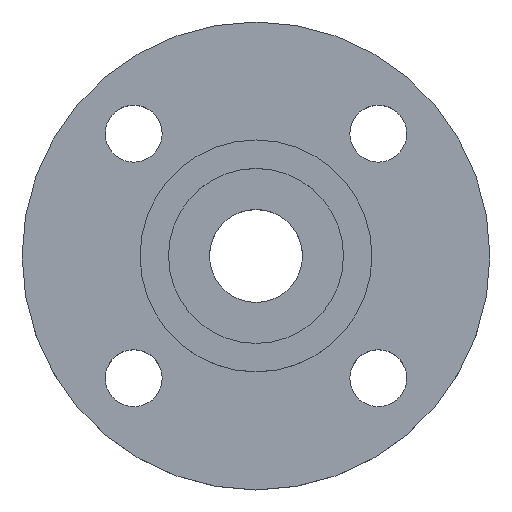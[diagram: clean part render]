
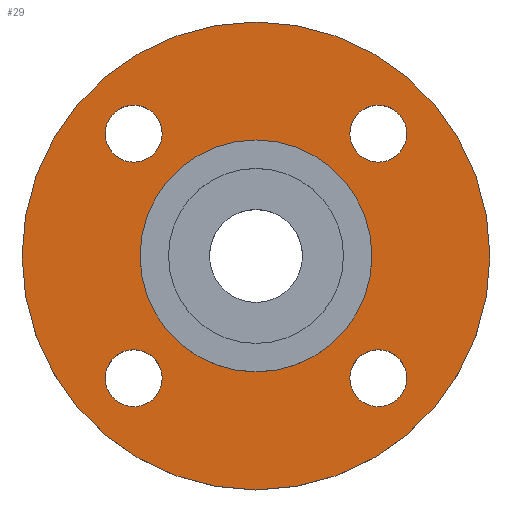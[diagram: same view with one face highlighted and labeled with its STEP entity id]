
A CAD part, top view. The second image highlights one B-rep face of the part: STEP entity #29.
In plain terms, the highlighted planar face has unit normal (0, 0, 1).
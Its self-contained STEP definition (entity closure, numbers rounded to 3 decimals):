
#6 = EDGE_CURVE ( 'NONE', #514, #507, #489, .T. ) ;
#22 = EDGE_CURVE ( 'NONE', #504, #510, #790, .T. ) ;
#29 = ADVANCED_FACE ( 'NONE', ( #195, #736, #737, #738, #739, #740 ), #743, .T. ) ;
#63 = AXIS2_PLACEMENT_3D ( 'NONE', #730, #731, #733 ) ;
#71 = CIRCLE ( 'NONE', #282, 57.5 ) ;
#91 = CARTESIAN_POINT ( 'NONE',  ( -37.052, 30.052, -4.5 ) ) ;
#95 = EDGE_CURVE ( 'NONE', #507, #514, #386, .T. ) ;
#100 = CARTESIAN_POINT ( 'NONE',  ( -28.5, 0., -4.5 ) ) ;
#101 = CARTESIAN_POINT ( 'NONE',  ( 57.5, 0., -4.5 ) ) ;
#104 = CARTESIAN_POINT ( 'NONE',  ( 23.052, -30.052, -4.5 ) ) ;
#105 = CARTESIAN_POINT ( 'NONE',  ( -57.5, 0., -4.5 ) ) ;
#131 = CIRCLE ( 'NONE', #275, 7. ) ;
#151 = EDGE_CURVE ( 'NONE', #503, #705, #465, .T. ) ;
#153 = CIRCLE ( 'NONE', #453, 7. ) ;
#154 = DIRECTION ( 'NONE',  ( -1., 0., 0. ) ) ;
#155 = DIRECTION ( 'NONE',  ( 0., 0., -1. ) ) ;
#156 = CARTESIAN_POINT ( 'NONE',  ( 0., 0., -4.5 ) ) ;
#159 = DIRECTION ( 'NONE',  ( 1., 0., 0. ) ) ;
#161 = DIRECTION ( 'NONE',  ( 0., 0., -1. ) ) ;
#162 = CARTESIAN_POINT ( 'NONE',  ( 30.052, -30.052, -4.5 ) ) ;
#164 = AXIS2_PLACEMENT_3D ( 'NONE', #156, #155, #154 ) ;
#165 = AXIS2_PLACEMENT_3D ( 'NONE', #786, #787, #788 ) ;
#195 = FACE_BOUND ( 'NONE', #691, .T. ) ;
#206 = CARTESIAN_POINT ( 'NONE',  ( 37.052, 30.052, -4.5 ) ) ;
#207 = CIRCLE ( 'NONE', #249, 7. ) ;
#212 = CARTESIAN_POINT ( 'NONE',  ( -30.052, -30.052, -4.5 ) ) ;
#214 = AXIS2_PLACEMENT_3D ( 'NONE', #744, #745, #746 ) ;
#215 = DIRECTION ( 'NONE',  ( 0., 0., -1. ) ) ;
#218 = DIRECTION ( 'NONE',  ( 1., 0., 0. ) ) ;
#228 = EDGE_CURVE ( 'NONE', #510, #504, #337, .T. ) ;
#244 = CARTESIAN_POINT ( 'NONE',  ( -23.052, -30.052, -4.5 ) ) ;
#246 = CARTESIAN_POINT ( 'NONE',  ( -30.052, 30.052, -4.5 ) ) ;
#249 = AXIS2_PLACEMENT_3D ( 'NONE', #459, #279, #292 ) ;
#250 = DIRECTION ( 'NONE',  ( 0., 0., -1. ) ) ;
#251 = CIRCLE ( 'NONE', #164, 28.5 ) ;
#253 = DIRECTION ( 'NONE',  ( 1., 0., 0. ) ) ;
#254 = EDGE_CURVE ( 'NONE', #708, #516, #300, .T. ) ;
#275 = AXIS2_PLACEMENT_3D ( 'NONE', #281, #284, #286 ) ;
#279 = DIRECTION ( 'NONE',  ( 0., 0., -1. ) ) ;
#281 = CARTESIAN_POINT ( 'NONE',  ( -30.052, 30.052, -4.5 ) ) ;
#282 = AXIS2_PLACEMENT_3D ( 'NONE', #342, #346, #348 ) ;
#284 = DIRECTION ( 'NONE',  ( 0., 0., -1. ) ) ;
#286 = DIRECTION ( 'NONE',  ( 1., 0., 0. ) ) ;
#292 = DIRECTION ( 'NONE',  ( 1., 0., 0. ) ) ;
#295 = EDGE_CURVE ( 'NONE', #516, #708, #131, .T. ) ;
#300 = CIRCLE ( 'NONE', #444, 7. ) ;
#315 = AXIS2_PLACEMENT_3D ( 'NONE', #212, #215, #218 ) ;
#317 = CARTESIAN_POINT ( 'NONE',  ( 0., 0., -4.5 ) ) ;
#318 = DIRECTION ( 'NONE',  ( 0., 0., -1. ) ) ;
#319 = DIRECTION ( 'NONE',  ( -1., 0., 0. ) ) ;
#337 = CIRCLE ( 'NONE', #315, 7. ) ;
#342 = CARTESIAN_POINT ( 'NONE',  ( 0., 0., -4.5 ) ) ;
#346 = DIRECTION ( 'NONE',  ( 0., 0., -1. ) ) ;
#348 = DIRECTION ( 'NONE',  ( -1., 0., 0. ) ) ;
#368 = EDGE_CURVE ( 'NONE', #693, #704, #470, .T. ) ;
#378 = AXIS2_PLACEMENT_3D ( 'NONE', #317, #318, #319 ) ;
#386 = CIRCLE ( 'NONE', #466, 7. ) ;
#420 = CARTESIAN_POINT ( 'NONE',  ( 28.5, 0., -4.5 ) ) ;
#433 = EDGE_CURVE ( 'NONE', #704, #693, #71, .T. ) ;
#436 = CARTESIAN_POINT ( 'NONE',  ( 23.052, 30.052, -4.5 ) ) ;
#444 = AXIS2_PLACEMENT_3D ( 'NONE', #246, #250, #253 ) ;
#445 = CARTESIAN_POINT ( 'NONE',  ( -37.052, -30.052, -4.5 ) ) ;
#453 = AXIS2_PLACEMENT_3D ( 'NONE', #162, #161, #159 ) ;
#459 = CARTESIAN_POINT ( 'NONE',  ( 30.052, -30.052, -4.5 ) ) ;
#465 = CIRCLE ( 'NONE', #165, 28.5 ) ;
#466 = AXIS2_PLACEMENT_3D ( 'NONE', #777, #778, #779 ) ;
#470 = CIRCLE ( 'NONE', #378, 57.5 ) ;
#476 = EDGE_CURVE ( 'NONE', #694, #700, #207, .T. ) ;
#484 = AXIS2_PLACEMENT_3D ( 'NONE', #709, #711, #712 ) ;
#489 = CIRCLE ( 'NONE', #484, 7. ) ;
#503 = VERTEX_POINT ( 'NONE', #420 ) ;
#504 = VERTEX_POINT ( 'NONE', #445 ) ;
#507 = VERTEX_POINT ( 'NONE', #436 ) ;
#510 = VERTEX_POINT ( 'NONE', #244 ) ;
#514 = VERTEX_POINT ( 'NONE', #206 ) ;
#516 = VERTEX_POINT ( 'NONE', #655 ) ;
#527 = EDGE_LOOP ( 'NONE', ( #622, #623 ) ) ;
#535 = EDGE_LOOP ( 'NONE', ( #620, #621 ) ) ;
#540 = EDGE_LOOP ( 'NONE', ( #628, #629 ) ) ;
#560 = EDGE_CURVE ( 'NONE', #700, #694, #153, .T. ) ;
#564 = EDGE_CURVE ( 'NONE', #705, #503, #251, .T. ) ;
#573 = CARTESIAN_POINT ( 'NONE',  ( 37.052, -30.052, -4.5 ) ) ;
#583 = EDGE_LOOP ( 'NONE', ( #624, #625 ) ) ;
#618 = ORIENTED_EDGE ( 'NONE', *, *, #560, .T. ) ;
#619 = ORIENTED_EDGE ( 'NONE', *, *, #476, .T. ) ;
#620 = ORIENTED_EDGE ( 'NONE', *, *, #228, .T. ) ;
#621 = ORIENTED_EDGE ( 'NONE', *, *, #22, .T. ) ;
#622 = ORIENTED_EDGE ( 'NONE', *, *, #295, .T. ) ;
#623 = ORIENTED_EDGE ( 'NONE', *, *, #254, .T. ) ;
#624 = ORIENTED_EDGE ( 'NONE', *, *, #6, .T. ) ;
#625 = ORIENTED_EDGE ( 'NONE', *, *, #95, .T. ) ;
#626 = ORIENTED_EDGE ( 'NONE', *, *, #564, .T. ) ;
#627 = ORIENTED_EDGE ( 'NONE', *, *, #151, .T. ) ;
#628 = ORIENTED_EDGE ( 'NONE', *, *, #433, .F. ) ;
#629 = ORIENTED_EDGE ( 'NONE', *, *, #368, .F. ) ;
#655 = CARTESIAN_POINT ( 'NONE',  ( -23.052, 30.052, -4.5 ) ) ;
#691 = EDGE_LOOP ( 'NONE', ( #618, #619 ) ) ;
#693 = VERTEX_POINT ( 'NONE', #105 ) ;
#694 = VERTEX_POINT ( 'NONE', #104 ) ;
#700 = VERTEX_POINT ( 'NONE', #573 ) ;
#702 = EDGE_LOOP ( 'NONE', ( #626, #627 ) ) ;
#704 = VERTEX_POINT ( 'NONE', #101 ) ;
#705 = VERTEX_POINT ( 'NONE', #100 ) ;
#708 = VERTEX_POINT ( 'NONE', #91 ) ;
#709 = CARTESIAN_POINT ( 'NONE',  ( 30.052, 30.052, -4.5 ) ) ;
#711 = DIRECTION ( 'NONE',  ( 0., 0., -1. ) ) ;
#712 = DIRECTION ( 'NONE',  ( 1., 0., 0. ) ) ;
#730 = CARTESIAN_POINT ( 'NONE',  ( -30.052, -30.052, -4.5 ) ) ;
#731 = DIRECTION ( 'NONE',  ( 0., 0., -1. ) ) ;
#733 = DIRECTION ( 'NONE',  ( 1., 0., 0. ) ) ;
#736 = FACE_BOUND ( 'NONE', #535, .T. ) ;
#737 = FACE_BOUND ( 'NONE', #527, .T. ) ;
#738 = FACE_BOUND ( 'NONE', #583, .T. ) ;
#739 = FACE_BOUND ( 'NONE', #702, .T. ) ;
#740 = FACE_OUTER_BOUND ( 'NONE', #540, .T. ) ;
#743 = PLANE ( 'NONE',  #214 ) ;
#744 = CARTESIAN_POINT ( 'NONE',  ( 28.5, 0., -4.5 ) ) ;
#745 = DIRECTION ( 'NONE',  ( 0., 0., 1. ) ) ;
#746 = DIRECTION ( 'NONE',  ( 1., 0., 0. ) ) ;
#777 = CARTESIAN_POINT ( 'NONE',  ( 30.052, 30.052, -4.5 ) ) ;
#778 = DIRECTION ( 'NONE',  ( 0., 0., -1. ) ) ;
#779 = DIRECTION ( 'NONE',  ( 1., 0., 0. ) ) ;
#786 = CARTESIAN_POINT ( 'NONE',  ( 0., 0., -4.5 ) ) ;
#787 = DIRECTION ( 'NONE',  ( 0., 0., -1. ) ) ;
#788 = DIRECTION ( 'NONE',  ( -1., 0., 0. ) ) ;
#790 = CIRCLE ( 'NONE', #63, 7. ) ;
